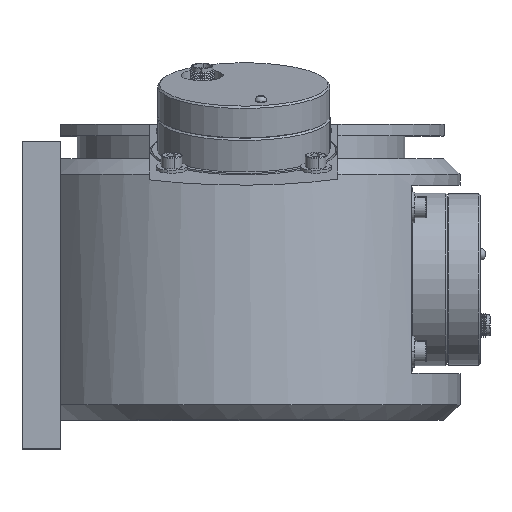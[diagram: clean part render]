
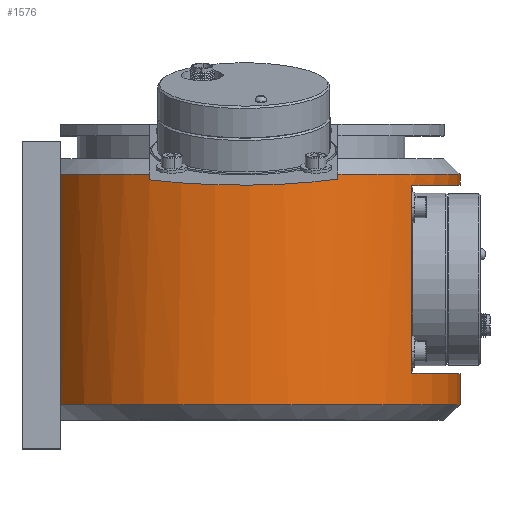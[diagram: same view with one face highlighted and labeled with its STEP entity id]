
A CAD part, top view. The second image highlights one B-rep face of the part: STEP entity #1576.
In plain terms, the highlighted cylindrical face has radius 57 mm (diameter 114 mm), a partial arc.
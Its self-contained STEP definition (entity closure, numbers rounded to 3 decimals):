
#291 = EDGE_LOOP ( 'NONE', ( #1354, #1355, #1356, #1357 ) ) ;
#340 = EDGE_LOOP ( 'NONE', ( #1358, #1359, #1360, #1361, #1362, #1363, #1364, #1365, #1366 ) ) ;
#1354 = ORIENTED_EDGE ( 'NONE', *, *, #1639, .F. ) ;
#1355 = ORIENTED_EDGE ( 'NONE', *, *, #1644, .T. ) ;
#1356 = ORIENTED_EDGE ( 'NONE', *, *, #1643, .T. ) ;
#1357 = ORIENTED_EDGE ( 'NONE', *, *, #1651, .F. ) ;
#1358 = ORIENTED_EDGE ( 'NONE', *, *, #1662, .F. ) ;
#1359 = ORIENTED_EDGE ( 'NONE', *, *, #1659, .F. ) ;
#1360 = ORIENTED_EDGE ( 'NONE', *, *, #14950, .T. ) ;
#1361 = ORIENTED_EDGE ( 'NONE', *, *, #1657, .T. ) ;
#1362 = ORIENTED_EDGE ( 'NONE', *, *, #14960, .T. ) ;
#1363 = ORIENTED_EDGE ( 'NONE', *, *, #1875, .F. ) ;
#1364 = ORIENTED_EDGE ( 'NONE', *, *, #1648, .F. ) ;
#1365 = ORIENTED_EDGE ( 'NONE', *, *, #1646, .T. ) ;
#1366 = ORIENTED_EDGE ( 'NONE', *, *, #1638, .F. ) ;
#1576 = ADVANCED_FACE ( 'NONE', ( #8419, #8421 ), #8420, .T. ) ;
#1638 = EDGE_CURVE ( 'NONE', #2154, #2106, #14187, .T. ) ;
#1639 = EDGE_CURVE ( 'NONE', #2087, #2105, #8894, .T. ) ;
#1643 = EDGE_CURVE ( 'NONE', #2150, #2109, #8910, .T. ) ;
#1644 = EDGE_CURVE ( 'NONE', #2087, #2150, #13472, .T. ) ;
#1646 = EDGE_CURVE ( 'NONE', #2130, #2106, #8924, .T. ) ;
#1648 = EDGE_CURVE ( 'NONE', #2130, #2007, #13476, .T. ) ;
#1651 = EDGE_CURVE ( 'NONE', #2105, #2109, #13482, .T. ) ;
#1657 = EDGE_CURVE ( 'NONE', #1969, #1983, #13480, .T. ) ;
#1659 = EDGE_CURVE ( 'NONE', #1988, #2012, #13496, .T. ) ;
#1662 = EDGE_CURVE ( 'NONE', #2012, #2154, #9032, .T. ) ;
#1875 = EDGE_CURVE ( 'NONE', #2007, #1966, #15513, .T. ) ;
#1966 = VERTEX_POINT ( 'NONE', #3519 ) ;
#1969 = VERTEX_POINT ( 'NONE', #3522 ) ;
#1983 = VERTEX_POINT ( 'NONE', #3536 ) ;
#1988 = VERTEX_POINT ( 'NONE', #3541 ) ;
#2007 = VERTEX_POINT ( 'NONE', #3560 ) ;
#2012 = VERTEX_POINT ( 'NONE', #3565 ) ;
#2087 = VERTEX_POINT ( 'NONE', #3585 ) ;
#2105 = VERTEX_POINT ( 'NONE', #3603 ) ;
#2106 = VERTEX_POINT ( 'NONE', #3604 ) ;
#2109 = VERTEX_POINT ( 'NONE', #3607 ) ;
#2130 = VERTEX_POINT ( 'NONE', #3628 ) ;
#2150 = VERTEX_POINT ( 'NONE', #3648 ) ;
#2154 = VERTEX_POINT ( 'NONE', #3652 ) ;
#3519 = CARTESIAN_POINT ( 'NONE',  ( -47., 64., -32.249 ) ) ;
#3522 = CARTESIAN_POINT ( 'NONE',  ( -47., 4., 32.249 ) ) ;
#3536 = CARTESIAN_POINT ( 'NONE',  ( -47., 4., -32.249 ) ) ;
#3541 = CARTESIAN_POINT ( 'NONE',  ( -47., 64., 32.249 ) ) ;
#3560 = CARTESIAN_POINT ( 'NONE',  ( 57., 64., 0. ) ) ;
#3565 = CARTESIAN_POINT ( 'NONE',  ( -23.79, 64., 51.798 ) ) ;
#3585 = CARTESIAN_POINT ( 'NONE',  ( 44.45, 61.14, 35.682 ) ) ;
#3603 = CARTESIAN_POINT ( 'NONE',  ( 44.45, 12.14, 35.682 ) ) ;
#3604 = CARTESIAN_POINT ( 'NONE',  ( 25.21, 62.675, 51.122 ) ) ;
#3607 = CARTESIAN_POINT ( 'NONE',  ( 44.45, 12.14, -35.682 ) ) ;
#3628 = CARTESIAN_POINT ( 'NONE',  ( 25.21, 64., 51.122 ) ) ;
#3648 = CARTESIAN_POINT ( 'NONE',  ( 44.45, 61.14, -35.682 ) ) ;
#3652 = CARTESIAN_POINT ( 'NONE',  ( -23.79, 62.494, 51.798 ) ) ;
#8417 = DIRECTION ( 'NONE',  ( -1., 0., 0. ) ) ;
#8418 = DIRECTION ( 'NONE',  ( 0., 1., 0. ) ) ;
#8419 = FACE_BOUND ( 'NONE', #291, .T. ) ;
#8420 = CYLINDRICAL_SURFACE ( 'NONE', #13740, 57. ) ;
#8421 = FACE_OUTER_BOUND ( 'NONE', #340, .T. ) ;
#8422 = CARTESIAN_POINT ( 'NONE',  ( 0., 77., 0. ) ) ;
#8876 = CARTESIAN_POINT ( 'NONE',  ( -7.918, 60.54, 59.088 ) ) ;
#8886 = CARTESIAN_POINT ( 'NONE',  ( -23.79, 62.494, 51.798 ) ) ;
#8892 = CARTESIAN_POINT ( 'NONE',  ( 9.546, 60.605, 58.847 ) ) ;
#8893 = CARTESIAN_POINT ( 'NONE',  ( 25.21, 62.675, 51.122 ) ) ;
#8894 = LINE ( 'NONE', #8897, #15468 ) ;
#8897 = CARTESIAN_POINT ( 'NONE',  ( 44.45, 61.14, 35.682 ) ) ;
#8899 = DIRECTION ( 'NONE',  ( 0., -1., 0. ) ) ;
#8902 = CARTESIAN_POINT ( 'NONE',  ( 44.45, 61.14, -35.682 ) ) ;
#8910 = LINE ( 'NONE', #8902, #13467 ) ;
#8921 = DIRECTION ( 'NONE',  ( 0., -1., 0. ) ) ;
#8924 = LINE ( 'NONE', #8926, #13474 ) ;
#8926 = CARTESIAN_POINT ( 'NONE',  ( 25.21, 77., 51.122 ) ) ;
#8928 = CARTESIAN_POINT ( 'NONE',  ( 0., 61.14, 0. ) ) ;
#8930 = DIRECTION ( 'NONE',  ( 0., 1., 0. ) ) ;
#8931 = DIRECTION ( 'NONE',  ( 0., 0., 1. ) ) ;
#8941 = DIRECTION ( 'NONE',  ( 0., -1., 0. ) ) ;
#8951 = CARTESIAN_POINT ( 'NONE',  ( 0., 64., 0. ) ) ;
#8952 = DIRECTION ( 'NONE',  ( 0., 1., 0. ) ) ;
#8954 = DIRECTION ( 'NONE',  ( -1., 0., 0. ) ) ;
#8968 = CARTESIAN_POINT ( 'NONE',  ( 0., 12.14, 0. ) ) ;
#8970 = DIRECTION ( 'NONE',  ( 0., 1., 0. ) ) ;
#8972 = DIRECTION ( 'NONE',  ( 0., 0., 1. ) ) ;
#9005 = CARTESIAN_POINT ( 'NONE',  ( 0., 4., 0. ) ) ;
#9007 = DIRECTION ( 'NONE',  ( 0., 1., 0. ) ) ;
#9009 = DIRECTION ( 'NONE',  ( -1., 0., 0. ) ) ;
#9017 = CARTESIAN_POINT ( 'NONE',  ( 0., 64., 0. ) ) ;
#9019 = DIRECTION ( 'NONE',  ( 0., 1., 0. ) ) ;
#9020 = DIRECTION ( 'NONE',  ( -1., 0., 0. ) ) ;
#9032 = LINE ( 'NONE', #9033, #13500 ) ;
#9033 = CARTESIAN_POINT ( 'NONE',  ( -23.79, 77., 51.798 ) ) ;
#9035 = DIRECTION ( 'NONE',  ( 0., -1., 0. ) ) ;
#9752 = LINE ( 'NONE', #9754, #11202 ) ;
#9754 = CARTESIAN_POINT ( 'NONE',  ( -47., 77., 32.249 ) ) ;
#9755 = DIRECTION ( 'NONE',  ( 0., -1., 0. ) ) ;
#9795 = LINE ( 'NONE', #9797, #11214 ) ;
#9797 = CARTESIAN_POINT ( 'NONE',  ( -47., 77., -32.249 ) ) ;
#9821 = DIRECTION ( 'NONE',  ( 0., 1., 0. ) ) ;
#10668 = CARTESIAN_POINT ( 'NONE',  ( 0., 64., 0. ) ) ;
#10670 = DIRECTION ( 'NONE',  ( 0., 1., 0. ) ) ;
#10672 = DIRECTION ( 'NONE',  ( -1., 0., 0. ) ) ;
#11202 = VECTOR ( 'NONE', #9755, 1000. ) ;
#11214 = VECTOR ( 'NONE', #9821, 1000. ) ;
#13467 = VECTOR ( 'NONE', #8921, 1000. ) ;
#13472 = CIRCLE ( 'NONE', #13473, 57. ) ;
#13473 = AXIS2_PLACEMENT_3D ( 'NONE', #8928, #8930, #8931 ) ;
#13474 = VECTOR ( 'NONE', #8941, 1000. ) ;
#13476 = CIRCLE ( 'NONE', #13479, 57. ) ;
#13479 = AXIS2_PLACEMENT_3D ( 'NONE', #8951, #8952, #8954 ) ;
#13480 = CIRCLE ( 'NONE', #13495, 57. ) ;
#13482 = CIRCLE ( 'NONE', #13484, 57. ) ;
#13484 = AXIS2_PLACEMENT_3D ( 'NONE', #8968, #8970, #8972 ) ;
#13495 = AXIS2_PLACEMENT_3D ( 'NONE', #9005, #9007, #9009 ) ;
#13496 = CIRCLE ( 'NONE', #13498, 57. ) ;
#13498 = AXIS2_PLACEMENT_3D ( 'NONE', #9017, #9019, #9020 ) ;
#13500 = VECTOR ( 'NONE', #9035, 1000. ) ;
#13740 = AXIS2_PLACEMENT_3D ( 'NONE', #8422, #8418, #8417 ) ;
#14187 =( BOUNDED_CURVE ( )  B_SPLINE_CURVE ( 3, ( #8886, #8876, #8892, #8893 ),
 .UNSPECIFIED., .F., .F. ) 
 B_SPLINE_CURVE_WITH_KNOTS ( ( 4, 4 ),
 ( 2.711, 3.6 ),
 .UNSPECIFIED. ) 
 CURVE ( )  GEOMETRIC_REPRESENTATION_ITEM ( )  RATIONAL_B_SPLINE_CURVE ( ( 1., 0.935, 0.935, 1. ) ) 
 REPRESENTATION_ITEM ( '' )  );
#14950 = EDGE_CURVE ( 'NONE', #1988, #1969, #9752, .T. ) ;
#14960 = EDGE_CURVE ( 'NONE', #1983, #1966, #9795, .T. ) ;
#15468 = VECTOR ( 'NONE', #8899, 1000. ) ;
#15513 = CIRCLE ( 'NONE', #15523, 57. ) ;
#15523 = AXIS2_PLACEMENT_3D ( 'NONE', #10668, #10670, #10672 ) ;
